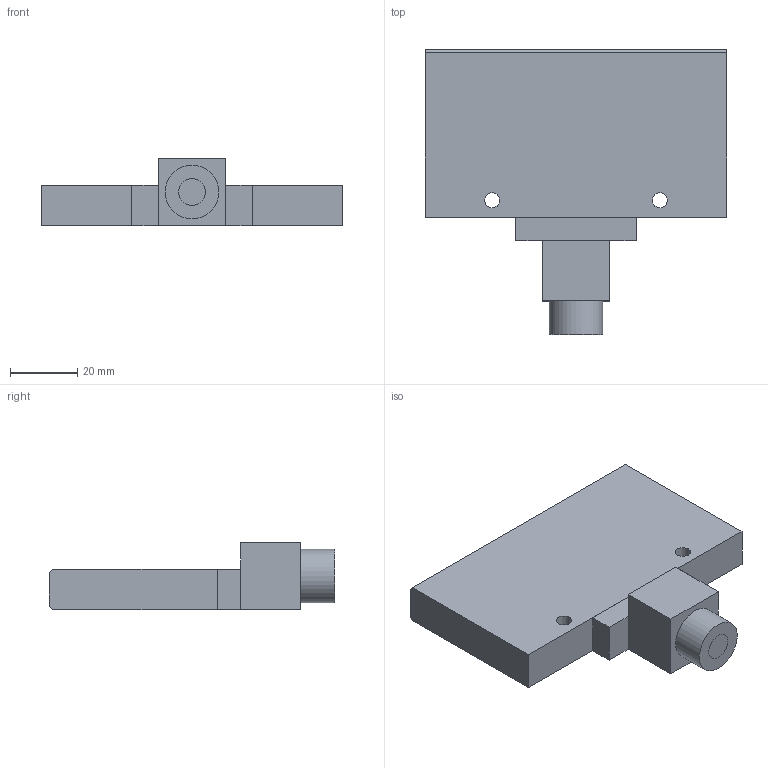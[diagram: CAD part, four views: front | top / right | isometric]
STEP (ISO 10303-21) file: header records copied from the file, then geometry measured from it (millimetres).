
FILE_DESCRIPTION(/* description */ (''),/* implementation_level */ '2;1');
FILE_NAME(/* name */ '',/* time_stamp */ '2023-02-24T17:41:31+09:00',/* author */ (''),/* organization */ (''),/* preprocessor_version */ 'ST-DEVELOPER v19.2',/* originating_system */ 'Autodesk Translation Framework v11.17.0.187',/* authorisation */ '');
FILE_SCHEMA (('AUTOMOTIVE_DESIGN { 1 0 10303 214 3 1 1 }'));
Length unit declared in the file: millimetre
Products named in the file (1): LS80×0.6 共通照射部
Bounding box: 90 x 85 x 20 mm (x, y, z)
Volume: 65762.9 mm3; surface area: 18939.7 mm2
Topology: 5 solids, 5 shells, 40 faces, 85 edges, 56 vertices
Faces by surface type: plane 35, cylinder 5
Full cylindrical faces by diameter (mm): 4.5 x2, 8 x2, 16 x1
Entity records: 1104 total; most frequent: CARTESIAN_POINT 182, DIRECTION 177, ORIENTED_EDGE 170, EDGE_CURVE 85, LINE 75, VECTOR 75, VERTEX_POINT 56, AXIS2_PLACEMENT_3D 51
